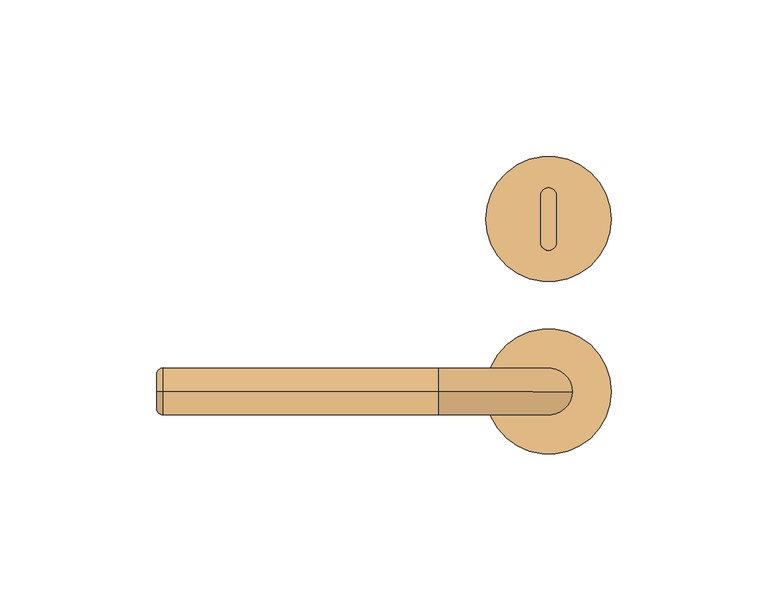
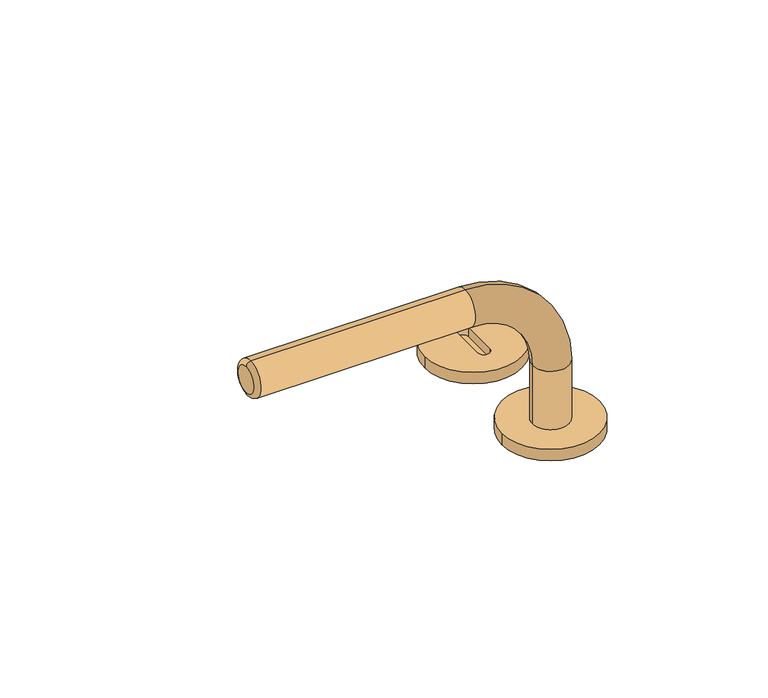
"""IFC4 building model written with IfcOpenShell, lengths in millimetres: door geometry, VERTI - kování TUPAI : ELIPTICA."""

from ifc_helpers import new_model, si_unit, point, frame, origin, origin_with_axes, origin_2d, place, context, project, spatial, polyline, circle_curve, ellipse_curve, trimmed, segment, composite_curve, outline, extrude, source, transform, mapped, element, save
from ifc_brep_helpers import plane_surface, cylinder_surface, revolved_surface, advanced_brep


def door_8a317082(model_context):
    return source(origin(), model_context, "Body", "SolidModel", [
        advanced_brep(
        [(7.5, 0.0, 0.0), (-7.5, 0.0, 0.0), (-7.5, 0.0, 30.0), (7.5, 0.0, 30.0), (-35.0, 0.0, 57.5), (-35.0, 0.0, 72.5), (-125.0, 0.0, 59.5), (-125.0, 0.0, 70.5), (-123.0, 0.0, 57.5), (-123.0, 0.0, 72.5)],
        [
            (0, 1, circle_curve(frame((0.0, 0.0, 0.0), z_axis=(0.0, 0.0, -1.0), x_axis=(-1.0, 0.0, 0.0)), 7.5)),
            (1, 0, circle_curve(frame((0.0, 0.0, 0.0), z_axis=(0.0, 0.0, -1.0), x_axis=(-1.0, 0.0, 0.0)), 7.5)),
            (1, 2),
            (2, 3, circle_curve(frame((0.0, 0.0, 30.0), z_axis=(0.0, 0.0, -1.0), x_axis=(-1.0, 0.0, 0.0)), 7.5)),
            (3, 0),
            (3, 2, circle_curve(frame((0.0, 0.0, 30.0), z_axis=(0.0, 0.0, -1.0), x_axis=(-1.0, 0.0, 0.0)), 7.5)),
            (2, 4, circle_curve(frame((-35.0, 0.0, 30.0), z_axis=(0.0, -1.0, 0.0), x_axis=(1.0, 0.0, 0.0)), 27.5)),
            (4, 5, circle_curve(frame((-35.0, 0.0, 65.0), z_axis=(1.0, 0.0, 0.0), x_axis=(0.0, 0.0, -1.0)), 7.5)),
            (5, 3, circle_curve(frame((-35.0, 0.0, 30.0), z_axis=(0.0, 1.0, 0.0), x_axis=(1.0, 0.0, 0.0)), 42.5)),
            (5, 4, circle_curve(frame((-35.0, 0.0, 65.0), z_axis=(1.0, 0.0, 0.0), x_axis=(0.0, 0.0, -1.0)), 7.5)),
            (6, 7, circle_curve(frame((-125.0, 0.0, 65.0), z_axis=(-1.0, 0.0, 0.0), x_axis=(0.0, 0.0, -1.0)), 5.5)),
            (7, 6, circle_curve(frame((-125.0, 0.0, 65.0), z_axis=(-1.0, 0.0, 0.0), x_axis=(0.0, 0.0, 1.0)), 5.5)),
            (4, 8),
            (8, 9, circle_curve(frame((-123.0, 0.0, 65.0), z_axis=(1.0, 0.0, 0.0), x_axis=(0.0, 0.0, -1.0)), 7.5)),
            (9, 5),
            (9, 8, circle_curve(frame((-123.0, 0.0, 65.0), z_axis=(1.0, 0.0, 0.0), x_axis=(0.0, 0.0, -1.0)), 7.5)),
            (7, 9, circle_curve(frame((-123.0, 0.0, 70.5), z_axis=(0.0, 1.0, 0.0), x_axis=(0.0, 0.0, -1.0)), 2.0)),
            (8, 6, circle_curve(frame((-123.0, 0.0, 59.5), z_axis=(0.0, 1.0, 0.0), x_axis=(0.0, 0.0, 1.0)), 2.0)),
        ],
        [
            plane_surface(frame((0.0, 0.0, 0.0), z_axis=(0.0, 0.0, -1.0), x_axis=(0.0, 1.0, 0.0))),
            cylinder_surface(frame((0.0, 0.0, 0.0), z_axis=(0.0, 0.0, -1.0), x_axis=(-1.0, 0.0, 0.0)), 7.5),
            revolved_surface(trimmed(ellipse_curve(frame((0.0, 0.0, 30.0), z_axis=(0.0, 0.0, 1.0), x_axis=(-1.0, 0.0, 0.0)), 7.5, 7.5), [point((7.5, 0.0, 30.0))], [point((-7.5, 0.0, 30.0))], True, "CARTESIAN"), (-35.0, 0.0, 30.0), (0.0, 1.0, 0.0)),
            revolved_surface(trimmed(ellipse_curve(frame((0.0, 0.0, 30.0), z_axis=(0.0, 0.0, 1.0), x_axis=(-1.0, 0.0, 0.0)), 7.5, 7.5), [point((-7.5, 0.0, 30.0))], [point((7.5, 0.0, 30.0))], True, "CARTESIAN"), (-35.0, 0.0, 30.0), (0.0, 1.0, 0.0)),
            plane_surface(frame((-125.0, 0.0, 65.0), z_axis=(-1.0, 0.0, 0.0), x_axis=(0.0, 1.0, 0.0))),
            cylinder_surface(frame((-35.0, 0.0, 65.0), z_axis=(1.0, 0.0, 0.0), x_axis=(0.0, 0.0, -1.0)), 7.5),
            revolved_surface(trimmed(ellipse_curve(frame((-123.0, 0.0, 70.5), z_axis=(0.0, 1.0, 0.0), x_axis=(0.0, 0.0, -1.0)), 2.0, 2.0), [point((-125.0, 0.0, 70.5))], [point((-123.0, 0.0, 72.5))], True, "CARTESIAN"), (-125.0, 0.0, 65.0), (1.0, 0.0, 0.0)),
            revolved_surface(trimmed(ellipse_curve(frame((-123.0, 0.0, 59.5), z_axis=(0.0, -1.0, 0.0), x_axis=(0.0, 0.0, 1.0)), 2.0, 2.0), [point((-125.0, 0.0, 59.5))], [point((-123.0, 0.0, 57.5))], True, "CARTESIAN"), (-125.0, 0.0, 65.0), (1.0, 0.0, 0.0)),
        ],
        [
            (0, [[1, 2]]),
            (1, [[3, 4, 5, -2]]),
            (1, [[-5, 6, -3, -1]]),
            (2, [[7, 8, 9, -4]]),
            (3, [[-9, 10, -7, -6]]),
            (4, [[11, 12]]),
            (5, [[13, 14, 15, -8]]),
            (5, [[-15, 16, -13, -10]]),
            (6, [[-12, 17, -14, 18]]),
            (7, [[-16, -17, -11, -18]]),
        ],
    ),
        advanced_brep(
        [(-20.0, 55.0, 5.0), (20.0, 55.0, 5.0), (-2.5, 62.4770958, 5.0), (2.5, 62.4770958, 5.0), (2.5, 47.5, 5.0), (-2.5, 47.5, 5.0), (-20.0, 55.0, 0.0), (20.0, 55.0, 0.0), (2.5, 62.4770958, 1.0), (2.5, 47.5, 1.0), (-2.5, 47.5, 1.0), (-2.5, 62.4770958, 1.0), (0.0, 45.0, 1.0)],
        [
            (0, 1, circle_curve(frame((0.0, 55.0, 5.0), z_axis=(0.0, 0.0, 1.0), x_axis=(1.0, 0.0, 0.0)), 20.0)),
            (1, 0, circle_curve(frame((0.0, 55.0, 5.0), z_axis=(0.0, 0.0, 1.0), x_axis=(1.0, 0.0, 0.0)), 20.0)),
            (2, 3, circle_curve(frame((0.0, 62.4770958, 5.0), z_axis=(0.0, 0.0, -1.0), x_axis=(1.0, 0.0, 0.0)), 2.5)),
            (3, 4),
            (4, 5, circle_curve(frame((0.0, 47.5, 5.0), z_axis=(0.0, 0.0, -1.0), x_axis=(1.0, 0.0, 0.0)), 2.5)),
            (5, 2),
            (6, 7, circle_curve(frame((0.0, 55.0, 0.0), z_axis=(0.0, 0.0, -1.0), x_axis=(1.0, 0.0, 0.0)), 20.0)),
            (7, 6, circle_curve(frame((0.0, 55.0, 0.0), z_axis=(0.0, 0.0, -1.0), x_axis=(1.0, 0.0, 0.0)), 20.0)),
            (1, 7),
            (6, 0),
            (3, 8),
            (8, 9),
            (9, 4),
            (5, 10),
            (10, 11),
            (11, 2),
            (8, 11, circle_curve(frame((0.0, 62.4770958, 1.0), z_axis=(0.0, 0.0, 1.0), x_axis=(1.0, 0.0, 0.0)), 2.5)),
            (10, 12, circle_curve(frame((0.0, 47.5, 1.0), z_axis=(0.0, 0.0, 1.0), x_axis=(1.0, 0.0, 0.0)), 2.5)),
            (12, 9, circle_curve(frame((0.0, 47.5, 1.0), z_axis=(0.0, 0.0, 1.0), x_axis=(1.0, 0.0, 0.0)), 2.5)),
        ],
        [
            plane_surface(frame((20.0, 55.0, 5.0), z_axis=(0.0, 0.0, 1.0), x_axis=(0.0, -1.0, 0.0))),
            plane_surface(frame((20.0, 55.0, 0.0), z_axis=(0.0, 0.0, -1.0), x_axis=(0.0, 1.0, 0.0))),
            cylinder_surface(frame((0.0, 55.0, 0.0), z_axis=(0.0, 0.0, 1.0), x_axis=(1.0, 0.0, 0.0)), 20.0),
            plane_surface(frame((2.5, 47.5, 5.0), z_axis=(-1.0, 0.0, 0.0), x_axis=(0.0, 0.0, -1.0))),
            plane_surface(frame((-2.5, 62.4770958, 5.0), z_axis=(1.0, 0.0, 0.0), x_axis=(0.0, 0.0, -1.0))),
            plane_surface(frame((-2.5, 45.0, 1.0), z_axis=(0.0, 0.0, 1.0), x_axis=(-1.0, 0.0, 0.0))),
            revolved_surface(polyline([(2.5, 47.5, 1.0), (2.5, 47.5, 5.0)]), (0.0, 47.5, 0.0), (0.0, 0.0, -1.0)),
            revolved_surface(polyline([(2.5, 62.4770958, 1.0), (2.5, 62.4770958, 5.0)]), (0.0, 62.4770958, 0.0), (0.0, 0.0, -1.0)),
        ],
        [
            (0, [[1, 2], [3, 4, 5, 6]]),
            (1, [[7, 8]]),
            (2, [[9, -7, 10, -2]]),
            (2, [[-10, -8, -9, -1]]),
            (3, [[11, 12, 13, -4]]),
            (4, [[14, 15, 16, -6]]),
            (5, [[17, -15, 18, 19, -12]]),
            (6, [[-13, -19, -18, -14, -5]]),
            (7, [[-16, -17, -11, -3]]),
        ],
    ),
        extrude(outline(composite_curve([segment(trimmed(circle_curve(origin_2d(), 20.0), [point((-20.0, 0.0))], [point((20.0, 0.0))], False, "CARTESIAN"), True, "CONTINUOUS"), segment(trimmed(circle_curve(origin_2d(), 20.0), [point((20.0, 0.0))], [point((-20.0, 0.0))], False, "CARTESIAN"), True, "CONTINUOUS")], self_intersect=False)), origin_with_axes(), (0.0, 0.0, 1.0), 5.0),
    ])


if __name__ == "__main__":
    model = new_model("IFC4")
    model_context = context("Model", 3, world=origin())
    ifc_project = project(units=[si_unit("LENGTHUNIT", "METRE", prefix="MILLI")], contexts=[model_context])
    site = spatial("IfcSite", under=ifc_project)
    building = spatial("IfcBuilding", under=site)
    placement = place(None, origin())
    door_shape = door_8a317082(model_context)
    element("IfcDoor", 1, ObjectType="VERTI - kování TUPAI : ELIPTICA", at=placement, inside=building, context=model_context, shape_type="MappedRepresentation", body=[
        mapped(door_shape, transform((0.0, 0.0, 0.0), x_axis=(1.0, 0.0, 0.0), y_axis=(0.0, 1.0, 0.0), z_axis=(0.0, 0.0, 1.0))),
    ])
    save(model, "model.ifc")
